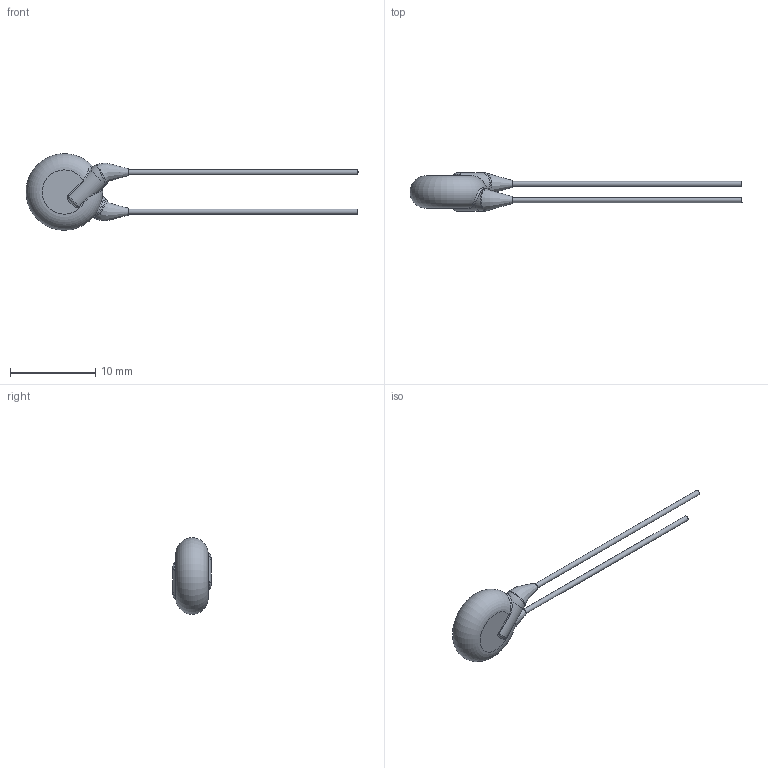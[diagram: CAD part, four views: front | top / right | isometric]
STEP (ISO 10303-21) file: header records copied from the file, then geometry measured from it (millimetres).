
FILE_DESCRIPTION(/* description */ (''),/* implementation_level */ '2;1');
FILE_NAME(/* name */ 'I:\Marketing\M6t1\3D-Models\Zchng-Werk-3\Upload for homepage\Roederstein\WYO\Y5U_250-440\WYO222MCMBF0KR\WYO222MCMBF0KR.stp',/* time_stamp */ '2018-03-21T10:54:57+01:00',/* author */ ('sheinrich'),/* organization */ (''),/* preprocessor_version */ 'ST-DEVELOPER v16.1',/* originating_system */ 'Autodesk Inventor 2016',/* authorisation */ '');
FILE_SCHEMA (('AUTOMOTIVE_DESIGN { 1 0 10303 214 3 1 1 }'));
Length unit declared in the file: centimetre
Products named in the file (1): WYO222MCMBF0KR
Bounding box: 38.99 x 4.5 x 8.99 mm (x, y, z)
Volume: 245.2 mm3; surface area: 328.4 mm2
Topology: 1 solids, 1 shells, 31 faces, 66 edges, 39 vertices
Faces by surface type: bspline 12, cylinder 8, plane 6, torus 5
Full cylindrical faces by diameter (mm): 0.6 x2
Entity records: 1660 total; most frequent: CARTESIAN_POINT 1027, ORIENTED_EDGE 116, DIRECTION 100, EDGE_CURVE 58, AXIS2_PLACEMENT_3D 46, EDGE_LOOP 38, VERTEX_POINT 36, STYLED_ITEM 32
